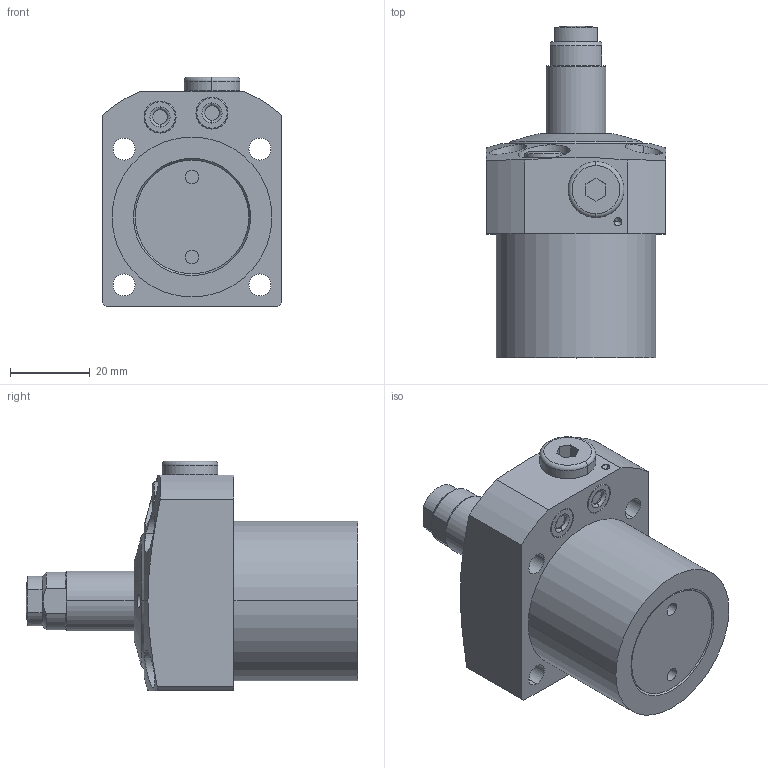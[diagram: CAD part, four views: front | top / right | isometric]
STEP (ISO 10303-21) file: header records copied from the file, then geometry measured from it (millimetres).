
FILE_DESCRIPTION(/* description */ (''),/* implementation_level */ '2;1');
FILE_NAME(/* name */ 'KFSS40-Q.stp',/* time_stamp */ '2023-01-10T13:19:02+08:00',/* author */ (''),/* organization */ (''),/* preprocessor_version */ 'ST-DEVELOPER v16.7',/* originating_system */ 'SIEMENS PLM Software NX 12.0',/* authorisation */ '');
FILE_SCHEMA (('AP203_CONFIGURATION_CONTROLLED_3D_DESIGN_OF_MECHANICAL_PARTS_AND_ASSEMBLIES_MIM_LF { 1 0 10303 403 2 1 2}'));
Length unit declared in the file: millimetre
Products named in the file (8): KFSS40-Q-6; KFSS40-Q-5; KFSS40-Q-7; KFSS40-Q-1; KFSS40-Q-2; KFSS40-Q-3; KFSS40-Q-8; LC0402-C-EQ_step
Assembly tree (8 placements, depth 2):
  LC0402-C-EQ_step
    KFSS40-Q-8  x2
    KFSS40-Q-3
    KFSS40-Q-2
    KFSS40-Q-1
    KFSS40-Q-7
    KFSS40-Q-5
    KFSS40-Q-6
Bounding box: 45 x 83 x 57.5 mm (x, y, z)
Volume: 89053.5 mm3; surface area: 20140.8 mm2
Topology: 8 solids, 8 shells, 215 faces, 469 edges, 290 vertices
Faces by surface type: cylinder 81, plane 64, cone 40, torus 28, sphere 2
Entity records: 6726 total; most frequent: CARTESIAN_POINT 1186, DIRECTION 1056, ORIENTED_EDGE 878, AXIS2_PLACEMENT_3D 440, EDGE_CURVE 439, VERTEX_POINT 276, EDGE_LOOP 241, CIRCLE 228
